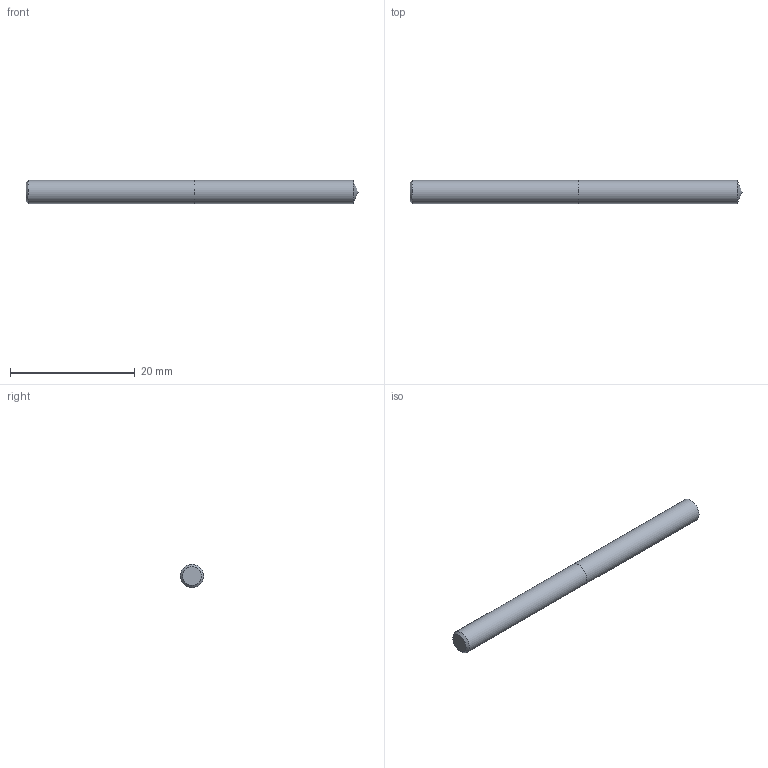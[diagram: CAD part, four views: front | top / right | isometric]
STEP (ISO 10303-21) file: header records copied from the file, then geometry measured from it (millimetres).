
FILE_DESCRIPTION (( 'STEP AP214' ), '1' );
FILE_NAME ('03-2368.STEP', '2022-06-03T06:49:37', ( 'USER' ), ( '' ), 'SwSTEP 2.0', 'SolidWorks 2018', '' );
FILE_SCHEMA (( 'AUTOMOTIVE_DESIGN' ));
Length unit declared in the file: inch
Products named in the file (1): 03-2368
Bounding box: 53.16 x 3.73 x 3.73 mm (x, y, z)
Volume: 575.7 mm3; surface area: 656.5 mm2
Topology: 2 solids, 2 shells, 7 faces, 11 edges, 7 vertices
Faces by surface type: plane 3, cylinder 2, cone 2
Full cylindrical faces by diameter (mm): 3.734 x2
Entity records: 214 total; most frequent: DIRECTION 26, CARTESIAN_POINT 18, AXIS2_PLACEMENT_3D 13, ORIENTED_EDGE 10, EDGE_LOOP 10, FACE_OUTER_BOUND 9, LENGTH_MEASURE_WITH_UNIT 7, ADVANCED_FACE 7
